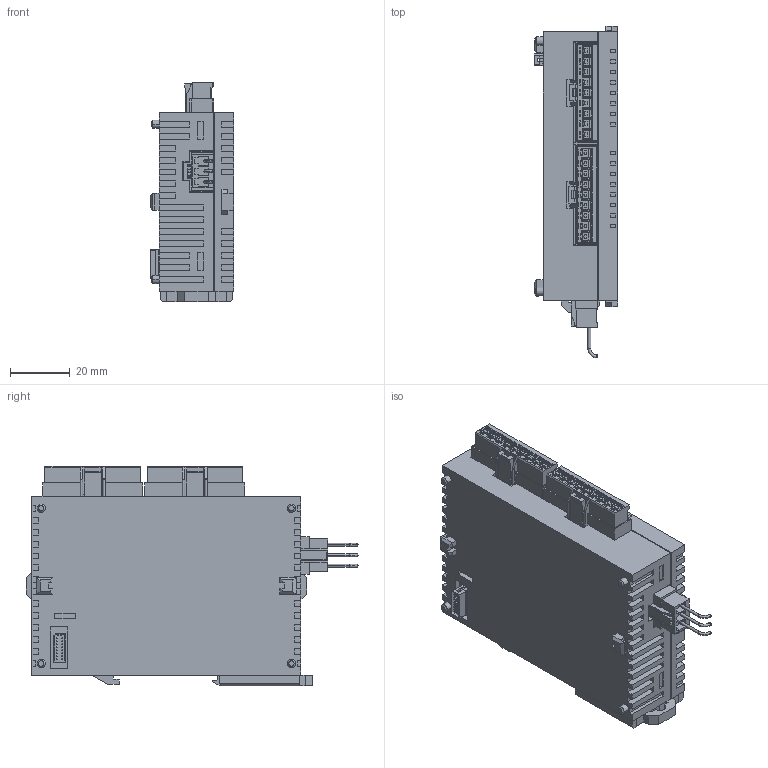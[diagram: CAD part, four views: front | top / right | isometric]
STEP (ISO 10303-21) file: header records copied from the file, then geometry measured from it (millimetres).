
FILE_DESCRIPTION (( 'STEP AP203' ), '1' );
FILE_NAME ('afp0re16rm.STEP', '2013-06-28T05:04:13', ( 'sunx' ), ( 'sunx' ), 'SwSTEP 2.0', 'SolidWorks 2010', '' );
FILE_SCHEMA (( 'CONFIG_CONTROL_DESIGN' ));
Products named in the file (1): afp0re16rm
Bounding box: 28 x 111.2 x 73.6 mm (x, y, z)
Volume: 139185.9 mm3; surface area: 29970.6 mm2
Topology: 1 solids, 1 shells, 1676 faces, 4576 edges, 2994 vertices
Faces by surface type: plane 1579, cylinder 49, bspline 34, cone 8, torus 6
Entity records: 52267 total; most frequent: CARTESIAN_POINT 9835, ORIENTED_EDGE 9152, DIRECTION 7948, EDGE_CURVE 4576, VECTOR 4438, LINE 4438, VERTEX_POINT 2994, EDGE_LOOP 1784
